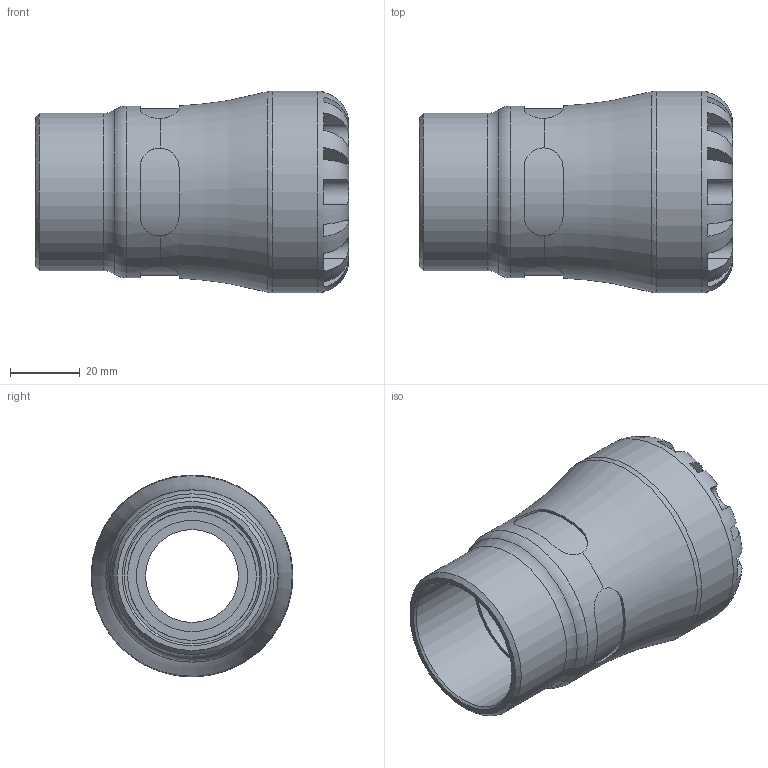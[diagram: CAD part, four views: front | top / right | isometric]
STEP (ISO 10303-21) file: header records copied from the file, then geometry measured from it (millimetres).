
FILE_DESCRIPTION(/* description */ ('PLASSON FEMALE ADAPTOR 32X1.1/4" SERIES 1'),/* implementation_level */ '2;1');
FILE_NAME(/* name */ 'C:\Dropbox\KIMPROJECTS-Inventor\99-16-3568-Processing\1003\100300032013_190300032013.ipt.step',/* time_stamp */ '2017-01-22T09:49:16+02:00',/* author */ ('KIM'),/* organization */ (''),/* preprocessor_version */ 'ST-DEVELOPER v15.6',/* originating_system */ 'Autodesk Inventor 2015',/* authorisation */ '');
FILE_SCHEMA (('AUTOMOTIVE_DESIGN { 1 0 10303 214 3 1 1 }'));
Length unit declared in the file: millimetre
Products named in the file (1): 100300032013_190300032013
Bounding box: 90 x 58 x 58 mm (x, y, z)
Volume: 99475.8 mm3; surface area: 28195.1 mm2
Topology: 1 solids, 1 shells, 106 faces, 269 edges, 169 vertices
Faces by surface type: plane 62, cylinder 36, torus 5, cone 3
Full cylindrical faces by diameter (mm): 26.667 x1, 32 x2, 37.004 x1, 38.952 x1, 45.24 x1, 49.3 x1, 58 x1
Entity records: 4008 total; most frequent: CARTESIAN_POINT 1481, ORIENTED_EDGE 496, DIRECTION 486, EDGE_CURVE 248, AXIS2_PLACEMENT_3D 203, VERTEX_POINT 164, EDGE_LOOP 128, STYLED_ITEM 107
